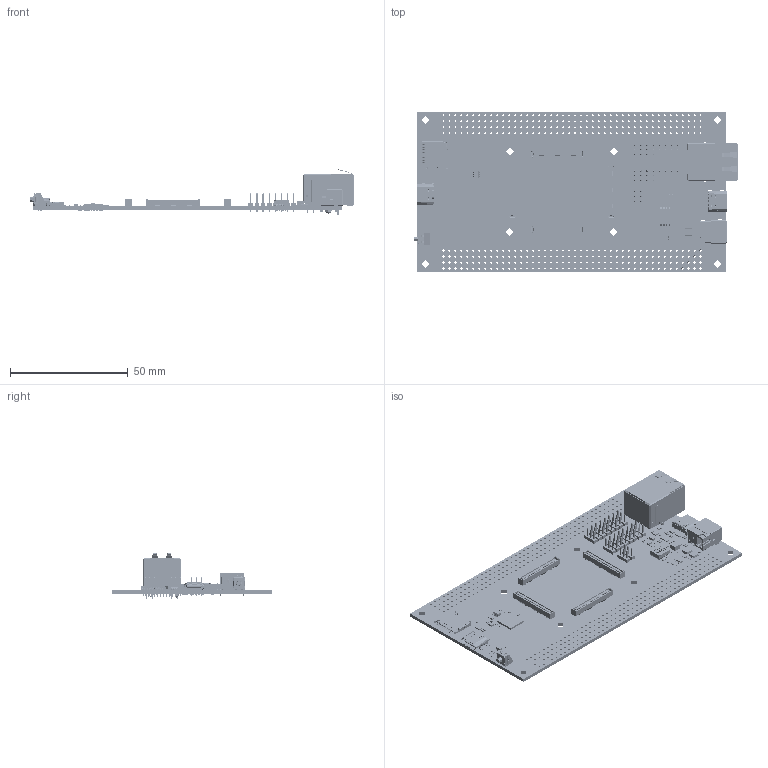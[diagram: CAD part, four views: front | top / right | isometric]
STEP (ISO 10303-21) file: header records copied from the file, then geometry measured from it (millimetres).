
FILE_DESCRIPTION(('KiCad electronic assembly'),'2;1');
FILE_NAME('xlc3233-01_carrier.step','2025-07-31T15:20:03',('Pcbnew'),( 'Kicad'),'Open CASCADE STEP processor 7.6','KiCad to STEP converter' ,'Unknown');
FILE_SCHEMA(('AUTOMOTIVE_DESIGN { 1 0 10303 214 1 1 1 1 }'));
Length unit declared in the file: millimetre
Products named in the file (2811): xlc3233-01_carrier 1; SC-88A; R_0402_1005Metric; Solid1; Solid2; Solid3; C_0402_1005Metric; TENSILITY_54-00127; 54-00127_54-00127; FB_0402_1005Metric; NX3020_SC-88_SOT363; part; SAMTEC_TMM-103-03-L-S; TMM-103-03-L-S_body; TMM-103-03-L-S_pins1; TMM-103-03-L-S_pins2; TPSM828303ARDSR; NEXPERIA_PCMF1USB3SZ; HIROSE_DM3D-SF; Card Detection Switch A; Card Detection Switch B; Sheet 1; Sheet 2; Shield Cover; Housing; Pin 1; Pin 2; Pin 3; Pin 4; Pin 5; Pin 6; Pin 7; Pin 8; NXP_NVT4858; HIROSE_DF40HC(3.0)-100DS-0.4V; DF40HC(3.0)-100DS-0.4V; PPAK1212-8_single; PPAK_1212_body; Pin5_8_single; Pin1_4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
Assembly tree (3958 placements, depth 4):
  xlc3233-01_carrier 1
    SC-88A
    R_0402_1005Metric  x47
      Solid1
      Solid2
      Solid2
      Solid3
    C_0402_1005Metric  x32
    TENSILITY_54-00127
      54-00127_54-00127
      54-00127_54-00127
      54-00127_54-00127
      54-00127_54-00127
      54-00127_54-00127
      54-00127_54-00127
    FB_0402_1005Metric  x3
    NX3020_SC-88_SOT363  x2
      part
      part
      part
      part
      part
      part
      part
      part
    SAMTEC_TMM-103-03-L-S  x18
      TMM-103-03-L-S_body
      TMM-103-03-L-S_pins1
      TMM-103-03-L-S_pins2
    TPSM828303ARDSR
    NEXPERIA_PCMF1USB3SZ
    HIROSE_DM3D-SF
      Card Detection Switch A
      Card Detection Switch B
      Sheet 1
      Sheet 2
      Shield Cover
      Housing
      Pin 1
      Pin 2
      Pin 3
      Pin 4
      Pin 5
      Pin 6
      Pin 7
      Pin 8
    NXP_NVT4858
    HIROSE_DF40HC(3.0)-100DS-0.4V  x4
      DF40HC(3.0)-100DS-0.4V
      DF40HC(3.0)-100DS-0.4V
      DF40HC(3.0)-100DS-0.4V
      DF40HC(3.0)-100DS-0.4V
      DF40HC(3.0)-100DS-0.4V
      DF40HC(3.0)-100DS-0.4V
      DF40HC(3.0)-100DS-0.4V
      DF40HC(3.0)-100DS-0.4V
      DF40HC(3.0)-100DS-0.4V
      DF40HC(3.0)-100DS-0.4V
      DF40HC(3.0)-100DS-0.4V
      DF40HC(3.0)-100DS-0.4V
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Bounding box: 137.59 x 68.2 x 19.27 mm (x, y, z)
Volume: 14298.4 mm3; surface area: 39284.4 mm2
Topology: 640 solids, 4965 shells, 23129 faces, 74848 edges, 57336 vertices
Faces by surface type: bspline 19197, plane 3150, cylinder 764, sphere 10, torus 6, cone 2
Full cylindrical faces by diameter (mm): 0.088 x1, 0.1 x1, 0.135 x1, 0.15 x1, 0.3 x2, 0.4 x1, 0.6 x1, 0.762 x2, 0.89 x54, 0.9 x10, 1.02 x356, 1.7 x2, 3.2 x2, 3.4 x8
Entity records: 452721 total; most frequent: CARTESIAN_POINT 176378, ORIENTED_EDGE 55184, EDGE_CURVE 35665, VERTEX_POINT 28712, B_SPLINE_CURVE_WITH_KNOTS 26280, DIRECTION 20387, FACE_BOUND 11486, EDGE_LOOP 11486
